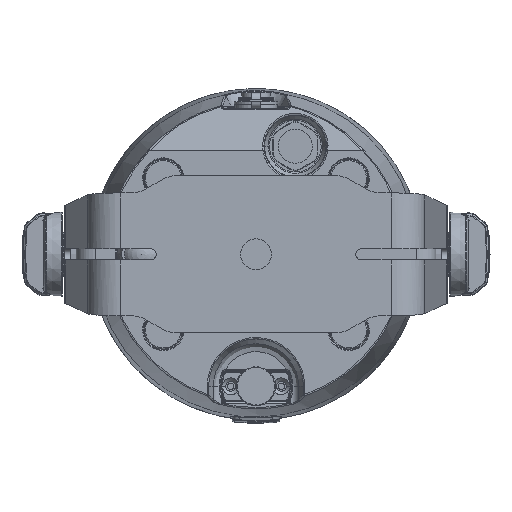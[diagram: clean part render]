
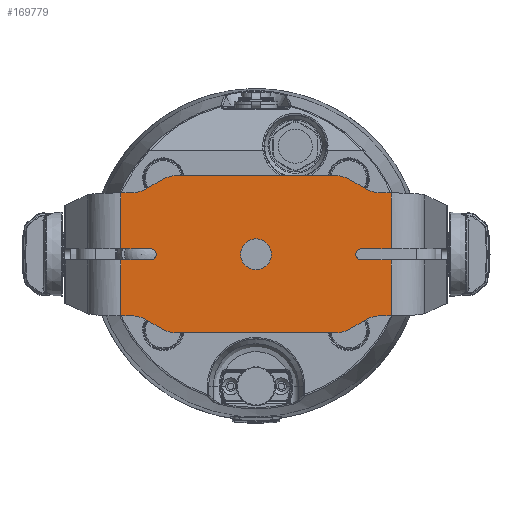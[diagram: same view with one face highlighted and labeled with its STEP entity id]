
A CAD part, front view. The second image highlights one B-rep face of the part: STEP entity #169779.
In plain terms, the highlighted planar face has unit normal (0, -1, 0).
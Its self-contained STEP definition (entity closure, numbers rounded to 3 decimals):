
#168120=CARTESIAN_POINT('',(48.174,-119.,21.854));
#168121=VERTEX_POINT('',#168120);
#168223=CARTESIAN_POINT('',(-48.174,-119.,21.854));
#168224=VERTEX_POINT('',#168223);
#168628=CARTESIAN_POINT('',(-48.174,-119.,-21.854));
#168629=VERTEX_POINT('',#168628);
#168948=CARTESIAN_POINT('',(48.174,-119.,-21.854));
#168949=VERTEX_POINT('',#168948);
#169031=CARTESIAN_POINT('',(-0.,-119.,-5.5));
#169032=VERTEX_POINT('',#169031);
#169039=CARTESIAN_POINT('',(0.,-119.,0.));
#169040=DIRECTION('',(-0.,1.,-0.));
#169041=DIRECTION('',(0.,0.,-1.));
#169042=AXIS2_PLACEMENT_3D('',#169039,#169040,#169041);
#169043=CIRCLE('',#169042,5.5);
#169044=EDGE_CURVE('',#169032,#169032,#169043,.T.);
#169063=CARTESIAN_POINT('',(37.5,-119.,-2.));
#169064=VERTEX_POINT('',#169063);
#169071=CARTESIAN_POINT('',(48.174,-119.,-2.));
#169072=VERTEX_POINT('',#169071);
#169073=CARTESIAN_POINT('',(48.174,-119.,-2.));
#169074=DIRECTION('',(-1.,-0.,0.));
#169075=VECTOR('',#169074,10.674);
#169076=LINE('',#169073,#169075);
#169077=EDGE_CURVE('',#169072,#169064,#169076,.T.);
#169096=CARTESIAN_POINT('',(37.5,-119.,2.));
#169097=VERTEX_POINT('',#169096);
#169104=CARTESIAN_POINT('',(37.5,-119.,0.));
#169105=DIRECTION('',(-0.,1.,-0.));
#169106=DIRECTION('',(0.,0.,-1.));
#169107=AXIS2_PLACEMENT_3D('',#169104,#169105,#169106);
#169108=CIRCLE('',#169107,2.);
#169109=EDGE_CURVE('',#169064,#169097,#169108,.T.);
#169126=CARTESIAN_POINT('',(48.174,-119.,2.));
#169127=VERTEX_POINT('',#169126);
#169135=CARTESIAN_POINT('',(37.5,-119.,2.));
#169136=DIRECTION('',(1.,0.,-0.));
#169137=VECTOR('',#169136,10.674);
#169138=LINE('',#169135,#169137);
#169139=EDGE_CURVE('',#169097,#169127,#169138,.T.);
#169155=CARTESIAN_POINT('',(48.174,-119.,2.));
#169156=DIRECTION('',(-0.,-0.,1.));
#169157=VECTOR('',#169156,19.854);
#169158=LINE('',#169155,#169157);
#169159=EDGE_CURVE('',#169127,#168121,#169158,.T.);
#169171=CARTESIAN_POINT('',(44.324,-119.,21.854));
#169172=VERTEX_POINT('',#169171);
#169173=CARTESIAN_POINT('',(48.174,-119.,21.854));
#169174=DIRECTION('',(-1.,-0.,0.));
#169175=VECTOR('',#169174,3.85);
#169176=LINE('',#169173,#169175);
#169177=EDGE_CURVE('',#168121,#169172,#169176,.T.);
#169195=CARTESIAN_POINT('',(39.324,-119.,23.194));
#169196=VERTEX_POINT('',#169195);
#169197=CARTESIAN_POINT('',(44.324,-119.,31.854));
#169198=DIRECTION('',(0.,1.,0.));
#169199=DIRECTION('',(0.,-0.,1.));
#169200=AXIS2_PLACEMENT_3D('',#169197,#169198,#169199);
#169201=CIRCLE('',#169200,10.);
#169202=EDGE_CURVE('',#169172,#169196,#169201,.T.);
#169222=CARTESIAN_POINT('',(33.321,-119.,26.66));
#169223=VERTEX_POINT('',#169222);
#169230=CARTESIAN_POINT('',(39.324,-119.,23.194));
#169231=DIRECTION('',(-0.866,0.,0.5));
#169232=VECTOR('',#169231,6.932);
#169233=LINE('',#169230,#169232);
#169234=EDGE_CURVE('',#169196,#169223,#169233,.T.);
#169245=CARTESIAN_POINT('',(28.321,-119.,28.));
#169246=VERTEX_POINT('',#169245);
#169253=CARTESIAN_POINT('',(28.321,-119.,18.));
#169254=DIRECTION('',(0.,-1.,0.));
#169255=DIRECTION('',(0.,0.,-1.));
#169256=AXIS2_PLACEMENT_3D('',#169253,#169254,#169255);
#169257=CIRCLE('',#169256,10.);
#169258=EDGE_CURVE('',#169223,#169246,#169257,.T.);
#169270=CARTESIAN_POINT('',(-28.321,-119.,28.));
#169271=VERTEX_POINT('',#169270);
#169278=CARTESIAN_POINT('',(28.321,-119.,28.));
#169279=DIRECTION('',(-1.,-0.,0.));
#169280=VECTOR('',#169279,56.641);
#169281=LINE('',#169278,#169280);
#169282=EDGE_CURVE('',#169246,#169271,#169281,.T.);
#169294=CARTESIAN_POINT('',(-33.321,-119.,26.66));
#169295=VERTEX_POINT('',#169294);
#169302=CARTESIAN_POINT('',(-28.321,-119.,18.));
#169303=DIRECTION('',(0.,-1.,0.));
#169304=DIRECTION('',(0.,0.,-1.));
#169305=AXIS2_PLACEMENT_3D('',#169302,#169303,#169304);
#169306=CIRCLE('',#169305,10.);
#169307=EDGE_CURVE('',#169271,#169295,#169306,.T.);
#169318=CARTESIAN_POINT('',(-39.324,-119.,23.194));
#169319=VERTEX_POINT('',#169318);
#169326=CARTESIAN_POINT('',(-33.321,-119.,26.66));
#169327=DIRECTION('',(-0.866,0.,-0.5));
#169328=VECTOR('',#169327,6.932);
#169329=LINE('',#169326,#169328);
#169330=EDGE_CURVE('',#169295,#169319,#169329,.T.);
#169342=CARTESIAN_POINT('',(-44.324,-119.,21.854));
#169343=VERTEX_POINT('',#169342);
#169344=CARTESIAN_POINT('',(-44.324,-119.,31.854));
#169345=DIRECTION('',(0.,1.,0.));
#169346=DIRECTION('',(0.,-0.,1.));
#169347=AXIS2_PLACEMENT_3D('',#169344,#169345,#169346);
#169348=CIRCLE('',#169347,10.);
#169349=EDGE_CURVE('',#169319,#169343,#169348,.T.);
#169369=CARTESIAN_POINT('',(-44.324,-119.,21.854));
#169370=DIRECTION('',(-1.,-0.,0.));
#169371=VECTOR('',#169370,3.85);
#169372=LINE('',#169369,#169371);
#169373=EDGE_CURVE('',#169343,#168224,#169372,.T.);
#169386=CARTESIAN_POINT('',(-48.174,-119.,2.));
#169387=VERTEX_POINT('',#169386);
#169395=CARTESIAN_POINT('',(-48.174,-119.,21.854));
#169396=DIRECTION('',(0.,0.,-1.));
#169397=VECTOR('',#169396,19.854);
#169398=LINE('',#169395,#169397);
#169399=EDGE_CURVE('',#168224,#169387,#169398,.T.);
#169416=CARTESIAN_POINT('',(-37.5,-119.,2.));
#169417=VERTEX_POINT('',#169416);
#169424=CARTESIAN_POINT('',(-48.174,-119.,2.));
#169425=DIRECTION('',(1.,0.,-0.));
#169426=VECTOR('',#169425,10.674);
#169427=LINE('',#169424,#169426);
#169428=EDGE_CURVE('',#169387,#169417,#169427,.T.);
#169441=CARTESIAN_POINT('',(-37.5,-119.,-2.));
#169442=VERTEX_POINT('',#169441);
#169449=CARTESIAN_POINT('',(-37.5,-119.,0.));
#169450=DIRECTION('',(-0.,1.,-0.));
#169451=DIRECTION('',(0.,0.,-1.));
#169452=AXIS2_PLACEMENT_3D('',#169449,#169450,#169451);
#169453=CIRCLE('',#169452,2.);
#169454=EDGE_CURVE('',#169417,#169442,#169453,.T.);
#169471=CARTESIAN_POINT('',(-48.174,-119.,-2.));
#169472=VERTEX_POINT('',#169471);
#169480=CARTESIAN_POINT('',(-37.5,-119.,-2.));
#169481=DIRECTION('',(-1.,-0.,0.));
#169482=VECTOR('',#169481,10.674);
#169483=LINE('',#169480,#169482);
#169484=EDGE_CURVE('',#169442,#169472,#169483,.T.);
#169500=CARTESIAN_POINT('',(-48.174,-119.,-2.));
#169501=DIRECTION('',(0.,0.,-1.));
#169502=VECTOR('',#169501,19.854);
#169503=LINE('',#169500,#169502);
#169504=EDGE_CURVE('',#169472,#168629,#169503,.T.);
#169516=CARTESIAN_POINT('',(-44.324,-119.,-21.854));
#169517=VERTEX_POINT('',#169516);
#169518=CARTESIAN_POINT('',(-48.174,-119.,-21.854));
#169519=DIRECTION('',(1.,0.,-0.));
#169520=VECTOR('',#169519,3.85);
#169521=LINE('',#169518,#169520);
#169522=EDGE_CURVE('',#168629,#169517,#169521,.T.);
#169540=CARTESIAN_POINT('',(-39.324,-119.,-23.194));
#169541=VERTEX_POINT('',#169540);
#169542=CARTESIAN_POINT('',(-44.324,-119.,-31.854));
#169543=DIRECTION('',(0.,1.,0.));
#169544=DIRECTION('',(0.,-0.,1.));
#169545=AXIS2_PLACEMENT_3D('',#169542,#169543,#169544);
#169546=CIRCLE('',#169545,10.);
#169547=EDGE_CURVE('',#169517,#169541,#169546,.T.);
#169567=CARTESIAN_POINT('',(-33.321,-119.,-26.66));
#169568=VERTEX_POINT('',#169567);
#169575=CARTESIAN_POINT('',(-39.324,-119.,-23.194));
#169576=DIRECTION('',(0.866,0.,-0.5));
#169577=VECTOR('',#169576,6.932);
#169578=LINE('',#169575,#169577);
#169579=EDGE_CURVE('',#169541,#169568,#169578,.T.);
#169590=CARTESIAN_POINT('',(-28.321,-119.,-28.));
#169591=VERTEX_POINT('',#169590);
#169598=CARTESIAN_POINT('',(-28.321,-119.,-18.));
#169599=DIRECTION('',(0.,-1.,0.));
#169600=DIRECTION('',(0.,0.,-1.));
#169601=AXIS2_PLACEMENT_3D('',#169598,#169599,#169600);
#169602=CIRCLE('',#169601,10.);
#169603=EDGE_CURVE('',#169568,#169591,#169602,.T.);
#169614=CARTESIAN_POINT('',(28.321,-119.,-28.));
#169615=VERTEX_POINT('',#169614);
#169622=CARTESIAN_POINT('',(-28.321,-119.,-28.));
#169623=DIRECTION('',(1.,0.,-0.));
#169624=VECTOR('',#169623,56.641);
#169625=LINE('',#169622,#169624);
#169626=EDGE_CURVE('',#169591,#169615,#169625,.T.);
#169639=CARTESIAN_POINT('',(33.321,-119.,-26.66));
#169640=VERTEX_POINT('',#169639);
#169647=CARTESIAN_POINT('',(28.321,-119.,-18.));
#169648=DIRECTION('',(0.,-1.,0.));
#169649=DIRECTION('',(0.,0.,-1.));
#169650=AXIS2_PLACEMENT_3D('',#169647,#169648,#169649);
#169651=CIRCLE('',#169650,10.);
#169652=EDGE_CURVE('',#169615,#169640,#169651,.T.);
#169663=CARTESIAN_POINT('',(39.324,-119.,-23.194));
#169664=VERTEX_POINT('',#169663);
#169671=CARTESIAN_POINT('',(33.321,-119.,-26.66));
#169672=DIRECTION('',(0.866,0.,0.5));
#169673=VECTOR('',#169672,6.932);
#169674=LINE('',#169671,#169673);
#169675=EDGE_CURVE('',#169640,#169664,#169674,.T.);
#169687=CARTESIAN_POINT('',(44.324,-119.,-21.854));
#169688=VERTEX_POINT('',#169687);
#169689=CARTESIAN_POINT('',(44.324,-119.,-31.854));
#169690=DIRECTION('',(0.,1.,0.));
#169691=DIRECTION('',(0.,-0.,1.));
#169692=AXIS2_PLACEMENT_3D('',#169689,#169690,#169691);
#169693=CIRCLE('',#169692,10.);
#169694=EDGE_CURVE('',#169664,#169688,#169693,.T.);
#169714=CARTESIAN_POINT('',(44.324,-119.,-21.854));
#169715=DIRECTION('',(1.,0.,-0.));
#169716=VECTOR('',#169715,3.85);
#169717=LINE('',#169714,#169716);
#169718=EDGE_CURVE('',#169688,#168949,#169717,.T.);
#169732=CARTESIAN_POINT('',(48.174,-119.,-21.854));
#169733=DIRECTION('',(-0.,-0.,1.));
#169734=VECTOR('',#169733,19.854);
#169735=LINE('',#169732,#169734);
#169736=EDGE_CURVE('',#168949,#169072,#169735,.T.);
#169741=CARTESIAN_POINT('',(-57.959,-119.,-33.75));
#169742=DIRECTION('',(0.,-1.,0.));
#169743=DIRECTION('',(0.,0.,-1.));
#169744=AXIS2_PLACEMENT_3D('',#169741,#169742,#169743);
#169745=PLANE('',#169744);
#169746=ORIENTED_EDGE('',*,*,#169718,.T.);
#169747=ORIENTED_EDGE('',*,*,#169736,.T.);
#169748=ORIENTED_EDGE('',*,*,#169077,.T.);
#169749=ORIENTED_EDGE('',*,*,#169109,.T.);
#169750=ORIENTED_EDGE('',*,*,#169139,.T.);
#169751=ORIENTED_EDGE('',*,*,#169159,.T.);
#169752=ORIENTED_EDGE('',*,*,#169177,.T.);
#169753=ORIENTED_EDGE('',*,*,#169202,.T.);
#169754=ORIENTED_EDGE('',*,*,#169234,.T.);
#169755=ORIENTED_EDGE('',*,*,#169258,.T.);
#169756=ORIENTED_EDGE('',*,*,#169282,.T.);
#169757=ORIENTED_EDGE('',*,*,#169307,.T.);
#169758=ORIENTED_EDGE('',*,*,#169330,.T.);
#169759=ORIENTED_EDGE('',*,*,#169349,.T.);
#169760=ORIENTED_EDGE('',*,*,#169373,.T.);
#169761=ORIENTED_EDGE('',*,*,#169399,.T.);
#169762=ORIENTED_EDGE('',*,*,#169428,.T.);
#169763=ORIENTED_EDGE('',*,*,#169454,.T.);
#169764=ORIENTED_EDGE('',*,*,#169484,.T.);
#169765=ORIENTED_EDGE('',*,*,#169504,.T.);
#169766=ORIENTED_EDGE('',*,*,#169522,.T.);
#169767=ORIENTED_EDGE('',*,*,#169547,.T.);
#169768=ORIENTED_EDGE('',*,*,#169579,.T.);
#169769=ORIENTED_EDGE('',*,*,#169603,.T.);
#169770=ORIENTED_EDGE('',*,*,#169626,.T.);
#169771=ORIENTED_EDGE('',*,*,#169652,.T.);
#169772=ORIENTED_EDGE('',*,*,#169675,.T.);
#169773=ORIENTED_EDGE('',*,*,#169694,.T.);
#169774=EDGE_LOOP('',(#169746,#169747,#169748,#169749,#169750,#169751,#169752,#169753,#169754,#169755,#169756,#169757,#169758,#169759,#169760,#169761,#169762,#169763,#169764,#169765,#169766,#169767,#169768,#169769,#169770,#169771,
#169772,#169773));
#169775=FACE_BOUND('',#169774,.T.);
#169776=ORIENTED_EDGE('',*,*,#169044,.T.);
#169777=EDGE_LOOP('',(#169776));
#169778=FACE_BOUND('',#169777,.T.);
#169779=ADVANCED_FACE('',(#169775,#169778),#169745,.T.);
